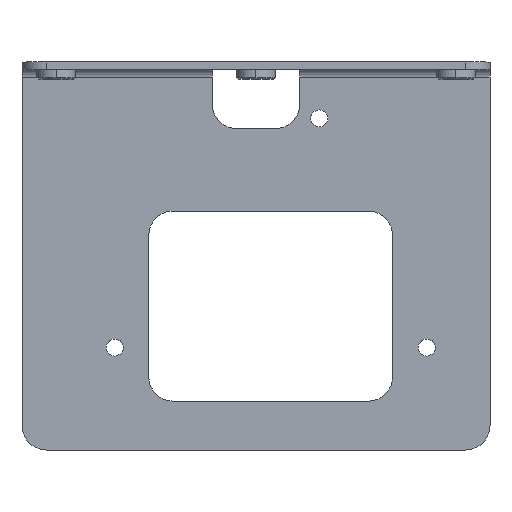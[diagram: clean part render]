
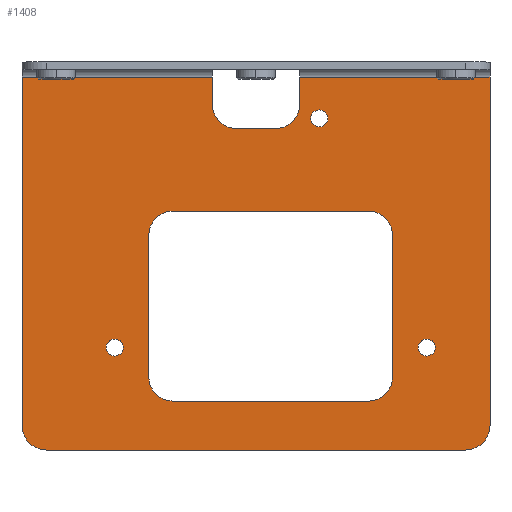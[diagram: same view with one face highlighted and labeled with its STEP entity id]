
A CAD part, top view. The second image highlights one B-rep face of the part: STEP entity #1408.
In plain terms, the highlighted planar face has unit normal (0, 0, 1).
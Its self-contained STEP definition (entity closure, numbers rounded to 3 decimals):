
#24=DIRECTION('',(-1.,0.,0.));
#25=VECTOR('',#24,8.);
#26=CARTESIAN_POINT('',(4.,29.928,-5.75));
#27=LINE('',#26,#25);
#32=DIRECTION('',(0.,-1.,0.));
#33=VECTOR('',#32,5.552);
#34=CARTESIAN_POINT('',(9.,40.48,-5.75));
#35=LINE('',#34,#33);
#39=CARTESIAN_POINT('',(43.,-31.02,-5.75));
#40=DIRECTION('',(0.,0.,1.));
#41=DIRECTION('',(0.,-1.,0.));
#42=AXIS2_PLACEMENT_3D('',#39,#40,#41);
#47=CARTESIAN_POINT('',(-43.,-31.02,-5.75));
#48=DIRECTION('',(0.,0.,1.));
#49=DIRECTION('',(-1.,0.,0.));
#50=AXIS2_PLACEMENT_3D('',#47,#48,#49);
#55=DIRECTION('',(0.,-1.,0.));
#56=VECTOR('',#55,5.552);
#57=CARTESIAN_POINT('',(-9.,40.48,-5.75));
#58=LINE('',#57,#56);
#62=CARTESIAN_POINT('',(35.,-15.,-5.75));
#63=DIRECTION('',(0.,0.,-1.));
#64=DIRECTION('',(0.,-1.,0.));
#65=AXIS2_PLACEMENT_3D('',#62,#63,#64);
#70=CARTESIAN_POINT('',(35.,-15.,-5.75));
#71=DIRECTION('',(0.,0.,-1.));
#72=DIRECTION('',(0.,1.,0.));
#73=AXIS2_PLACEMENT_3D('',#70,#71,#72);
#78=CARTESIAN_POINT('',(-29.,-15.,-5.75));
#79=DIRECTION('',(0.,0.,-1.));
#80=DIRECTION('',(0.,-1.,0.));
#81=AXIS2_PLACEMENT_3D('',#78,#79,#80);
#86=CARTESIAN_POINT('',(-29.,-15.,-5.75));
#87=DIRECTION('',(0.,0.,-1.));
#88=DIRECTION('',(0.,1.,0.));
#89=AXIS2_PLACEMENT_3D('',#86,#87,#88);
#94=CARTESIAN_POINT('',(13.,32.,-5.75));
#95=DIRECTION('',(0.,0.,-1.));
#96=DIRECTION('',(0.,-1.,0.));
#97=AXIS2_PLACEMENT_3D('',#94,#95,#96);
#102=CARTESIAN_POINT('',(13.,32.,-5.75));
#103=DIRECTION('',(0.,0.,-1.));
#104=DIRECTION('',(0.,1.,0.));
#105=AXIS2_PLACEMENT_3D('',#102,#103,#104);
#110=DIRECTION('',(1.,0.,0.));
#111=VECTOR('',#110,40.);
#112=CARTESIAN_POINT('',(-17.,-26.,-5.75));
#113=LINE('',#112,#111);
#117=DIRECTION('',(0.,1.,0.));
#118=VECTOR('',#117,29.);
#119=CARTESIAN_POINT('',(28.,-21.,-5.75));
#120=LINE('',#119,#118);
#124=DIRECTION('',(-1.,0.,0.));
#125=VECTOR('',#124,40.);
#126=CARTESIAN_POINT('',(23.,13.,-5.75));
#127=LINE('',#126,#125);
#131=DIRECTION('',(0.,-1.,0.));
#132=VECTOR('',#131,29.);
#133=CARTESIAN_POINT('',(-22.,8.,-5.75));
#134=LINE('',#133,#132);
#152=CARTESIAN_POINT('',(-4.,34.928,-5.75));
#153=DIRECTION('',(0.,0.,-1.));
#154=DIRECTION('',(0.,-1.,0.));
#155=AXIS2_PLACEMENT_3D('',#152,#153,#154);
#197=DIRECTION('',(-1.,0.,0.));
#198=VECTOR('',#197,39.);
#199=CARTESIAN_POINT('',(-9.,40.48,-5.75));
#200=LINE('',#199,#198);
#204=DIRECTION('',(-1.,0.,0.));
#205=VECTOR('',#204,39.);
#206=CARTESIAN_POINT('',(48.,40.48,-5.75));
#207=LINE('',#206,#205);
#392=CARTESIAN_POINT('',(4.,34.928,-5.75));
#393=DIRECTION('',(0.,0.,-1.));
#394=DIRECTION('',(1.,0.,0.));
#395=AXIS2_PLACEMENT_3D('',#392,#393,#394);
#840=DIRECTION('',(0.,-1.,0.));
#841=VECTOR('',#840,71.5);
#842=CARTESIAN_POINT('',(48.,40.48,-5.75));
#843=LINE('',#842,#841);
#875=DIRECTION('',(1.,0.,0.));
#876=VECTOR('',#875,86.);
#877=CARTESIAN_POINT('',(-43.,-36.02,-5.75));
#878=LINE('',#877,#876);
#903=DIRECTION('',(0.,-1.,0.));
#904=VECTOR('',#903,71.5);
#905=CARTESIAN_POINT('',(-48.,40.48,-5.75));
#906=LINE('',#905,#904);
#1043=CARTESIAN_POINT('',(23.,8.,-5.75));
#1044=DIRECTION('',(0.,0.,-1.));
#1045=DIRECTION('',(0.,1.,0.));
#1046=AXIS2_PLACEMENT_3D('',#1043,#1044,#1045);
#1073=CARTESIAN_POINT('',(-17.,8.,-5.75));
#1074=DIRECTION('',(0.,0.,-1.));
#1075=DIRECTION('',(-1.,0.,0.));
#1076=AXIS2_PLACEMENT_3D('',#1073,#1074,#1075);
#1103=CARTESIAN_POINT('',(-17.,-21.,-5.75));
#1104=DIRECTION('',(0.,0.,-1.));
#1105=DIRECTION('',(0.,-1.,0.));
#1106=AXIS2_PLACEMENT_3D('',#1103,#1104,#1105);
#1133=CARTESIAN_POINT('',(23.,-21.,-5.75));
#1134=DIRECTION('',(0.,0.,-1.));
#1135=DIRECTION('',(1.,0.,0.));
#1136=AXIS2_PLACEMENT_3D('',#1133,#1134,#1135);
#1149=CARTESIAN_POINT('',(35.,-16.75,-5.75));
#1150=CARTESIAN_POINT('',(35.,-13.25,-5.75));
#1151=VERTEX_POINT('',#1149);
#1152=VERTEX_POINT('',#1150);
#1153=CARTESIAN_POINT('',(-29.,-16.75,-5.75));
#1154=CARTESIAN_POINT('',(-29.,-13.25,-5.75));
#1155=VERTEX_POINT('',#1153);
#1156=VERTEX_POINT('',#1154);
#1157=CARTESIAN_POINT('',(13.,30.25,-5.75));
#1158=CARTESIAN_POINT('',(13.,33.75,-5.75));
#1159=VERTEX_POINT('',#1157);
#1160=VERTEX_POINT('',#1158);
#1201=CARTESIAN_POINT('',(48.,40.48,-5.75));
#1202=VERTEX_POINT('',#1201);
#1203=CARTESIAN_POINT('',(9.,40.48,-5.75));
#1204=VERTEX_POINT('',#1203);
#1205=CARTESIAN_POINT('',(-9.,40.48,-5.75));
#1207=VERTEX_POINT('',#1205);
#1209=CARTESIAN_POINT('',(-48.,40.48,-5.75));
#1210=VERTEX_POINT('',#1209);
#1249=CARTESIAN_POINT('',(43.,-36.02,-5.75));
#1250=CARTESIAN_POINT('',(48.,-31.02,-5.75));
#1251=VERTEX_POINT('',#1249);
#1252=VERTEX_POINT('',#1250);
#1257=CARTESIAN_POINT('',(-48.,-31.02,-5.75));
#1258=CARTESIAN_POINT('',(-43.,-36.02,-5.75));
#1259=VERTEX_POINT('',#1257);
#1260=VERTEX_POINT('',#1258);
#1277=CARTESIAN_POINT('',(-4.,29.928,-5.75));
#1279=VERTEX_POINT('',#1277);
#1281=CARTESIAN_POINT('',(-9.,34.928,-5.75));
#1283=VERTEX_POINT('',#1281);
#1285=CARTESIAN_POINT('',(9.,34.928,-5.75));
#1287=VERTEX_POINT('',#1285);
#1289=CARTESIAN_POINT('',(4.,29.928,-5.75));
#1291=VERTEX_POINT('',#1289);
#1309=CARTESIAN_POINT('',(23.,13.,-5.75));
#1311=VERTEX_POINT('',#1309);
#1313=CARTESIAN_POINT('',(28.,8.,-5.75));
#1315=VERTEX_POINT('',#1313);
#1317=CARTESIAN_POINT('',(28.,-21.,-5.75));
#1319=VERTEX_POINT('',#1317);
#1321=CARTESIAN_POINT('',(23.,-26.,-5.75));
#1323=VERTEX_POINT('',#1321);
#1325=CARTESIAN_POINT('',(-17.,-26.,-5.75));
#1327=VERTEX_POINT('',#1325);
#1329=CARTESIAN_POINT('',(-22.,-21.,-5.75));
#1331=VERTEX_POINT('',#1329);
#1333=CARTESIAN_POINT('',(-22.,8.,-5.75));
#1335=VERTEX_POINT('',#1333);
#1337=CARTESIAN_POINT('',(-17.,13.,-5.75));
#1339=VERTEX_POINT('',#1337);
#1341=CARTESIAN_POINT('',(-48.,42.,-5.75));
#1342=DIRECTION('',(0.,0.,1.));
#1343=DIRECTION('',(0.,-1.,0.));
#1344=AXIS2_PLACEMENT_3D('',#1341,#1342,#1343);
#1345=PLANE('',#1344);
#1347=ORIENTED_EDGE('',*,*,#1346,.F.);
#1349=ORIENTED_EDGE('',*,*,#1348,.F.);
#1351=ORIENTED_EDGE('',*,*,#1350,.F.);
#1353=ORIENTED_EDGE('',*,*,#1352,.F.);
#1355=ORIENTED_EDGE('',*,*,#1354,.T.);
#1357=ORIENTED_EDGE('',*,*,#1356,.F.);
#1359=ORIENTED_EDGE('',*,*,#1358,.F.);
#1361=ORIENTED_EDGE('',*,*,#1360,.F.);
#1363=ORIENTED_EDGE('',*,*,#1362,.F.);
#1365=ORIENTED_EDGE('',*,*,#1364,.F.);
#1367=ORIENTED_EDGE('',*,*,#1366,.T.);
#1369=ORIENTED_EDGE('',*,*,#1368,.F.);
#1370=EDGE_LOOP('',(#1347,#1349,#1351,#1353,#1355,#1357,#1359,#1361,#1363,#1365,
#1367,#1369));
#1371=FACE_OUTER_BOUND('',#1370,.F.);
#1373=ORIENTED_EDGE('',*,*,#1372,.F.);
#1375=ORIENTED_EDGE('',*,*,#1374,.F.);
#1376=EDGE_LOOP('',(#1373,#1375));
#1377=FACE_BOUND('',#1376,.F.);
#1379=ORIENTED_EDGE('',*,*,#1378,.F.);
#1381=ORIENTED_EDGE('',*,*,#1380,.F.);
#1382=EDGE_LOOP('',(#1379,#1381));
#1383=FACE_BOUND('',#1382,.F.);
#1385=ORIENTED_EDGE('',*,*,#1384,.F.);
#1387=ORIENTED_EDGE('',*,*,#1386,.F.);
#1388=EDGE_LOOP('',(#1385,#1387));
#1389=FACE_BOUND('',#1388,.F.);
#1391=ORIENTED_EDGE('',*,*,#1390,.T.);
#1393=ORIENTED_EDGE('',*,*,#1392,.F.);
#1395=ORIENTED_EDGE('',*,*,#1394,.T.);
#1397=ORIENTED_EDGE('',*,*,#1396,.F.);
#1399=ORIENTED_EDGE('',*,*,#1398,.T.);
#1401=ORIENTED_EDGE('',*,*,#1400,.F.);
#1403=ORIENTED_EDGE('',*,*,#1402,.T.);
#1405=ORIENTED_EDGE('',*,*,#1404,.F.);
#1406=EDGE_LOOP('',(#1391,#1393,#1395,#1397,#1399,#1401,#1403,#1405));
#1407=FACE_BOUND('',#1406,.F.);
#43=CIRCLE('',#42,5.);
#51=CIRCLE('',#50,5.);
#66=CIRCLE('',#65,1.75);
#74=CIRCLE('',#73,1.75);
#82=CIRCLE('',#81,1.75);
#90=CIRCLE('',#89,1.75);
#98=CIRCLE('',#97,1.75);
#106=CIRCLE('',#105,1.75);
#156=CIRCLE('',#155,5.);
#396=CIRCLE('',#395,5.);
#1047=CIRCLE('',#1046,5.);
#1077=CIRCLE('',#1076,5.);
#1107=CIRCLE('',#1106,5.);
#1137=CIRCLE('',#1136,5.);
#1346=EDGE_CURVE('',#1291,#1279,#27,.T.);
#1348=EDGE_CURVE('',#1287,#1291,#396,.T.);
#1350=EDGE_CURVE('',#1204,#1287,#35,.T.);
#1352=EDGE_CURVE('',#1202,#1204,#207,.T.);
#1354=EDGE_CURVE('',#1202,#1252,#843,.T.);
#1356=EDGE_CURVE('',#1251,#1252,#43,.T.);
#1358=EDGE_CURVE('',#1260,#1251,#878,.T.);
#1360=EDGE_CURVE('',#1259,#1260,#51,.T.);
#1362=EDGE_CURVE('',#1210,#1259,#906,.T.);
#1364=EDGE_CURVE('',#1207,#1210,#200,.T.);
#1366=EDGE_CURVE('',#1207,#1283,#58,.T.);
#1368=EDGE_CURVE('',#1279,#1283,#156,.T.);
#1372=EDGE_CURVE('',#1151,#1152,#66,.T.);
#1374=EDGE_CURVE('',#1152,#1151,#74,.T.);
#1378=EDGE_CURVE('',#1155,#1156,#82,.T.);
#1380=EDGE_CURVE('',#1156,#1155,#90,.T.);
#1384=EDGE_CURVE('',#1159,#1160,#98,.T.);
#1386=EDGE_CURVE('',#1160,#1159,#106,.T.);
#1390=EDGE_CURVE('',#1327,#1323,#113,.T.);
#1392=EDGE_CURVE('',#1319,#1323,#1137,.T.);
#1394=EDGE_CURVE('',#1319,#1315,#120,.T.);
#1396=EDGE_CURVE('',#1311,#1315,#1047,.T.);
#1398=EDGE_CURVE('',#1311,#1339,#127,.T.);
#1400=EDGE_CURVE('',#1335,#1339,#1077,.T.);
#1402=EDGE_CURVE('',#1335,#1331,#134,.T.);
#1404=EDGE_CURVE('',#1327,#1331,#1107,.T.);
#1408=ADVANCED_FACE('',(#1371,#1377,#1383,#1389,#1407),#1345,.T.);
